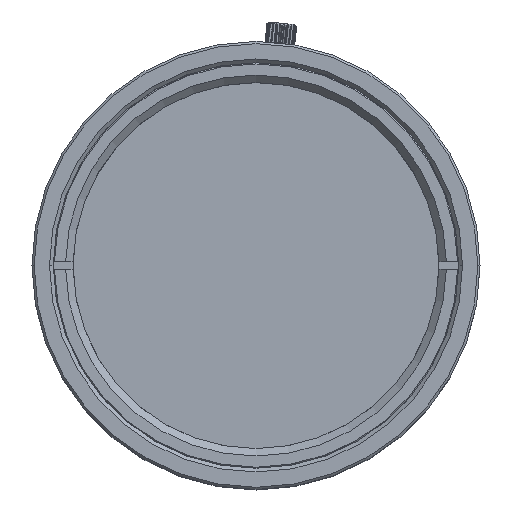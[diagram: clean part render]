
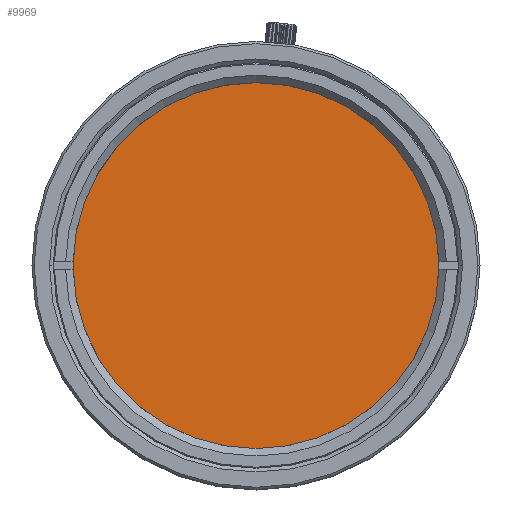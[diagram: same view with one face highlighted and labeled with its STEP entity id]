
A CAD part, top view. The second image highlights one B-rep face of the part: STEP entity #9969.
In plain terms, the highlighted planar face has unit normal (0, 0, 1).
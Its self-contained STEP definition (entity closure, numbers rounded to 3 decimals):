
#250 = AXIS2_PLACEMENT_3D ( 'NONE', #21139, #11218, #1312 ) ;
#1133 = ORIENTED_EDGE ( 'NONE', *, *, #15261, .T. ) ;
#1312 = DIRECTION ( 'NONE',  ( 1., 0., 0. ) ) ;
#1394 = DIRECTION ( 'NONE',  ( 0., 0., -1. ) ) ;
#3090 = ORIENTED_EDGE ( 'NONE', *, *, #19371, .T. ) ;
#4196 = DIRECTION ( 'NONE',  ( 0., 0., 1. ) ) ;
#4630 = CARTESIAN_POINT ( 'NONE',  ( 0., 0., 59.414 ) ) ;
#6307 = PLANE ( 'NONE',  #9502 ) ;
#7441 = CARTESIAN_POINT ( 'NONE',  ( 24.6, 0., 59.414 ) ) ;
#7514 = FACE_OUTER_BOUND ( 'NONE', #13020, .T. ) ;
#7548 = CIRCLE ( 'NONE', #16138, 24.6 ) ;
#9502 = AXIS2_PLACEMENT_3D ( 'NONE', #4630, #1394, #12952 ) ;
#9969 = ADVANCED_FACE ( 'NONE', ( #7514 ), #6307, .F. ) ;
#11218 = DIRECTION ( 'NONE',  ( 0., 0., 1. ) ) ;
#12952 = DIRECTION ( 'NONE',  ( -1., 0., 0. ) ) ;
#13020 = EDGE_LOOP ( 'NONE', ( #3090, #1133 ) ) ;
#14115 = CARTESIAN_POINT ( 'NONE',  ( 0., 0., 59.414 ) ) ;
#15261 = EDGE_CURVE ( 'NONE', #18584, #18718, #16159, .T. ) ;
#15801 = DIRECTION ( 'NONE',  ( 1., 0., 0. ) ) ;
#16138 = AXIS2_PLACEMENT_3D ( 'NONE', #14115, #4196, #15801 ) ;
#16159 = CIRCLE ( 'NONE', #250, 24.6 ) ;
#18584 = VERTEX_POINT ( 'NONE', #7441 ) ;
#18718 = VERTEX_POINT ( 'NONE', #20764 ) ;
#19371 = EDGE_CURVE ( 'NONE', #18718, #18584, #7548, .T. ) ;
#20764 = CARTESIAN_POINT ( 'NONE',  ( -24.6, 0., 59.414 ) ) ;
#21139 = CARTESIAN_POINT ( 'NONE',  ( 0., 0., 59.414 ) ) ;
